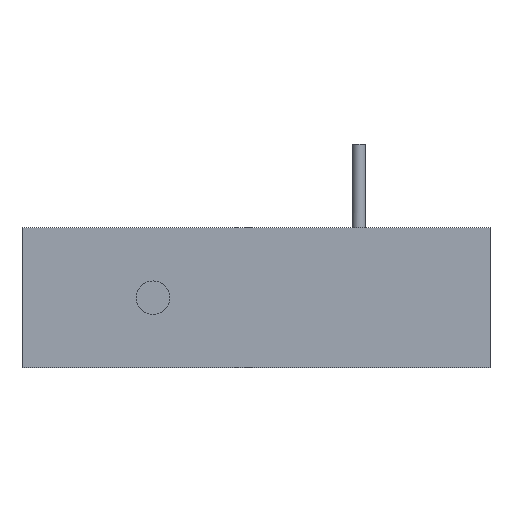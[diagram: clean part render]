
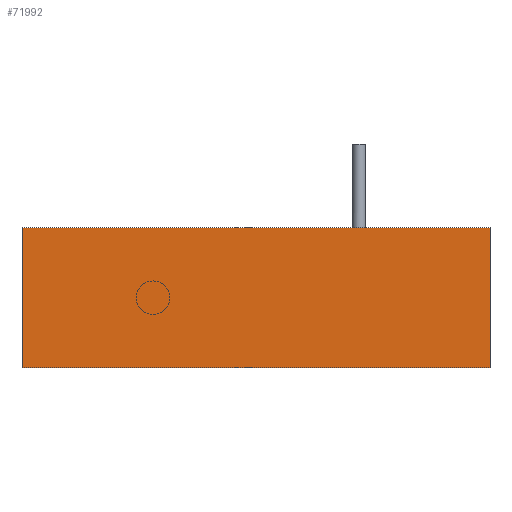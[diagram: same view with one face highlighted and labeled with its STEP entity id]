
A CAD part, front view. The second image highlights one B-rep face of the part: STEP entity #71992.
In plain terms, the highlighted planar face has unit normal (0, -1, 0).
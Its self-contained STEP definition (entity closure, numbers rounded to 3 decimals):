
#31330=DIRECTION('',(0.,0.,-1.));
#31331=VECTOR('',#31330,75.);
#31332=CARTESIAN_POINT('',(-180.,-10.,37.5));
#31333=LINE('',#31332,#31331);
#31334=DIRECTION('',(-1.,0.,0.));
#31335=VECTOR('',#31334,250.);
#31336=CARTESIAN_POINT('',(70.,-10.,37.5));
#31337=LINE('',#31336,#31335);
#31338=DIRECTION('',(0.,0.,1.));
#31339=VECTOR('',#31338,75.);
#31340=CARTESIAN_POINT('',(70.,-10.,-37.5));
#31341=LINE('',#31340,#31339);
#31342=DIRECTION('',(1.,0.,0.));
#31343=VECTOR('',#31342,250.);
#31344=CARTESIAN_POINT('',(-180.,-10.,-37.5));
#31345=LINE('',#31344,#31343);
#35139=CARTESIAN_POINT('',(-180.,-10.,-37.5));
#35140=CARTESIAN_POINT('',(70.,-10.,-37.5));
#35141=VERTEX_POINT('',#35139);
#35142=VERTEX_POINT('',#35140);
#35143=CARTESIAN_POINT('',(70.,-10.,37.5));
#35144=CARTESIAN_POINT('',(-180.,-10.,37.5));
#35145=VERTEX_POINT('',#35143);
#35146=VERTEX_POINT('',#35144);
#71978=CARTESIAN_POINT('',(-55.,-10.,0.));
#71979=DIRECTION('',(0.,-1.,0.));
#71980=DIRECTION('',(1.,0.,0.));
#71981=AXIS2_PLACEMENT_3D('',#71978,#71979,#71980);
#71982=PLANE('',#71981);
#71983=ORIENTED_EDGE('',*,*,#71968,.F.);
#71985=ORIENTED_EDGE('',*,*,#71984,.F.);
#71987=ORIENTED_EDGE('',*,*,#71986,.F.);
#71989=ORIENTED_EDGE('',*,*,#71988,.F.);
#71990=EDGE_LOOP('',(#71983,#71985,#71987,#71989));
#71991=FACE_OUTER_BOUND('',#71990,.F.);
#71992=ADVANCED_FACE('',(#71991),#71982,.T.);
#71968=EDGE_CURVE('',#35146,#35141,#31333,.T.);
#71984=EDGE_CURVE('',#35145,#35146,#31337,.T.);
#71986=EDGE_CURVE('',#35142,#35145,#31341,.T.);
#71988=EDGE_CURVE('',#35141,#35142,#31345,.T.);
